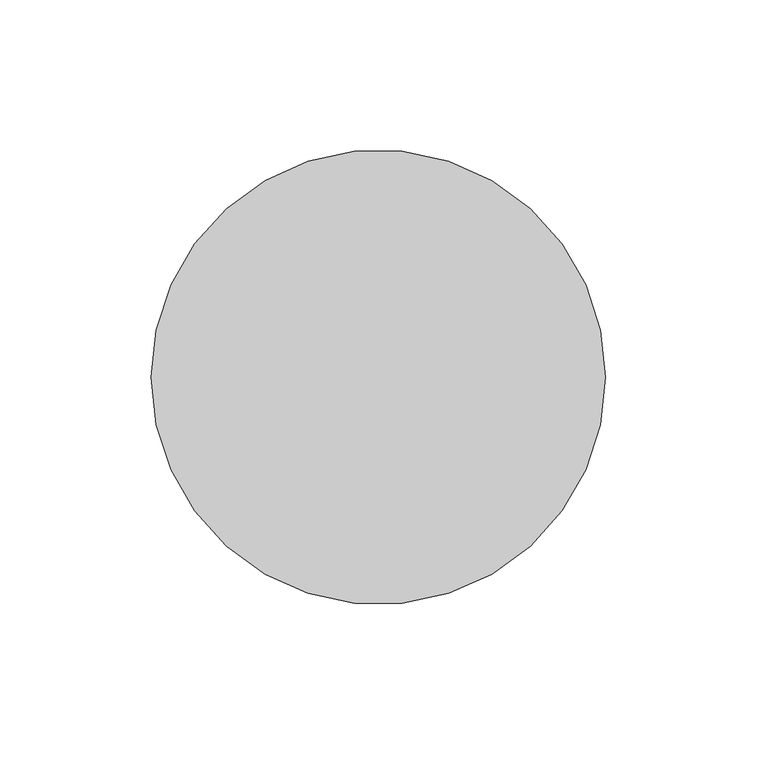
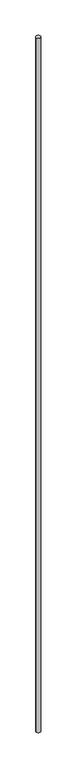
"""IFC4 building model written with IfcOpenShell, lengths in millimetres: flow terminal geometry, SP_Стояки : К."""

from ifc_helpers import new_model, si_unit, point, frame, frame_2d, origin, place, context, project, spatial, circle_curve, trimmed, segment, composite_curve, outline, extrude, source, transform, mapped, element, save


def flow_terminal_93b91fa1(model_context):
    return source(origin(), model_context, "Body", "SweptSolid", [
        extrude(outline(composite_curve([segment(trimmed(circle_curve(frame_2d((100.0, 94.7596685)), 75.0), [point((25.0, 94.7596685))], [point((175.0, 94.7596685))], False, "CARTESIAN"), True, "CONTINUOUS"), segment(trimmed(circle_curve(frame_2d((100.0, 94.7596685)), 75.0), [point((175.0, 94.7596685))], [point((25.0, 94.7596685))], False, "CARTESIAN"), True, "CONTINUOUS")], self_intersect=False)), frame((0.0, 0.0, 4500.0), z_axis=(0.0, 0.0, 1.0), x_axis=(1.0, 0.0, 0.0)), (0.0, 0.0, 1.0), 25200.0),
    ])


if __name__ == "__main__":
    model = new_model("IFC4")
    model_context = context("Model", 3, world=origin())
    ifc_project = project(units=[si_unit("LENGTHUNIT", "METRE", prefix="MILLI")], contexts=[model_context])
    site = spatial("IfcSite", under=ifc_project)
    building = spatial("IfcBuilding", under=site)
    placement = place(None, origin())
    flow_terminal_shape = flow_terminal_93b91fa1(model_context)
    element("IfcFlowTerminal", 1, ObjectType="SP_Стояки : К", at=placement, inside=building, context=model_context, shape_type="MappedRepresentation", body=[
        mapped(flow_terminal_shape, transform((0.0, 0.0, 0.0), x_axis=(1.0, 0.0, 0.0), y_axis=(0.0, 1.0, 0.0), z_axis=(0.0, 0.0, 1.0))),
    ])
    save(model, "model.ifc")
